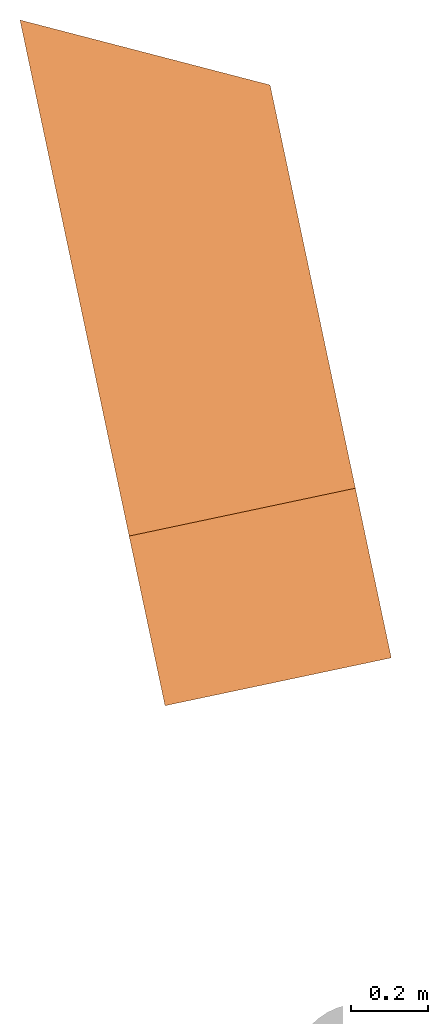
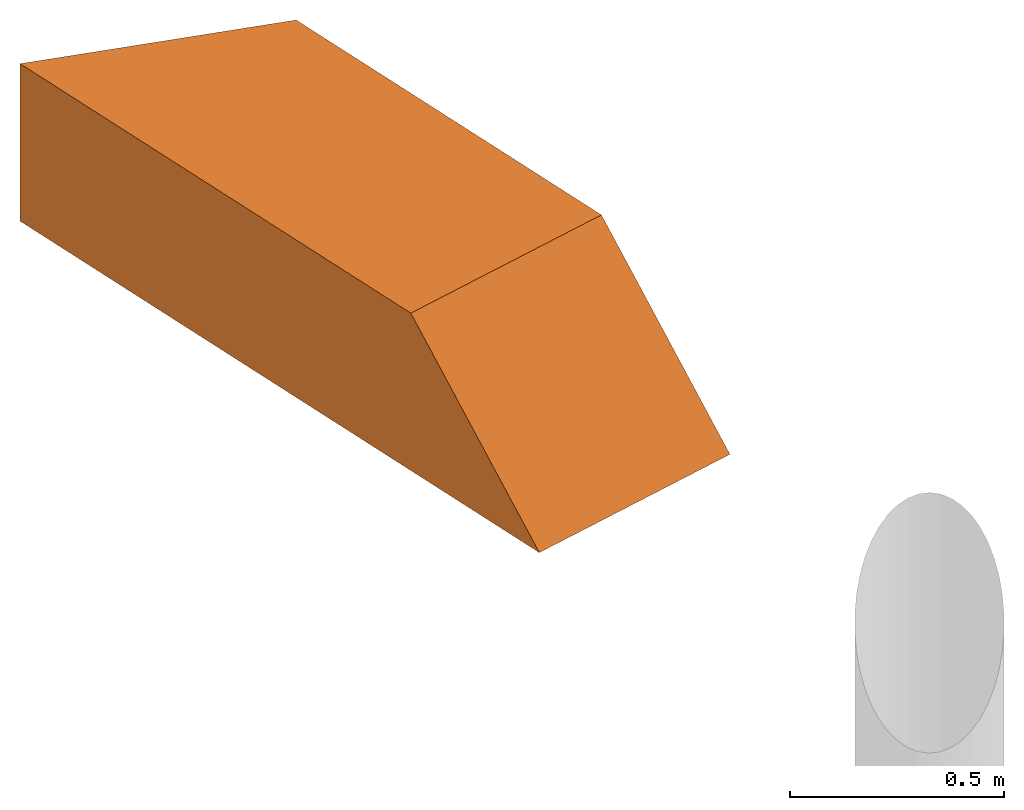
# One storey, part 2 of 2: 1 proxy.
"""IFC2X3 building model written with IfcOpenShell, lengths in millimetres."""

from ifc_helpers import new_model, entity, si_unit, converted_unit, derived_unit, direction, frame, origin, origin_with_axes, place, context, subcontext, project, spatial, faceted_brep, material, type_object, element, save


model = new_model("IFC2X3")

# Units and contexts
model_context = context("Model", 3, precision=0.01, world=origin(), true_north=direction((6.12323399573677e-17, 1.0)))
plan_context = context("Plan", 3, precision=1e-05, world=origin_with_axes())
body_context = subcontext(model_context, "Body", "Model", "MODEL_VIEW")
ifc_project = project(units=[converted_unit("PLANEANGLEUNIT", "DEGREE", entity("IfcPositiveLengthMeasure", 0.0174532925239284), si_unit("PLANEANGLEUNIT", "RADIAN"), dimensions=[0, 0, 0, 0, 0, 0, 0]), si_unit("AREAUNIT", "SQUARE_METRE"), si_unit("LENGTHUNIT", "METRE", prefix="MILLI"), si_unit("MASSUNIT", "GRAM", prefix="KILO"), si_unit("POWERUNIT", "WATT"), si_unit("PRESSUREUNIT", "PASCAL", prefix="KILO"), si_unit("FORCEUNIT", "NEWTON", prefix="KILO"), si_unit("ELECTRICVOLTAGEUNIT", "VOLT"), si_unit("ELECTRICCURRENTUNIT", "AMPERE"), si_unit("THERMODYNAMICTEMPERATUREUNIT", "DEGREE_CELSIUS"), si_unit("TIMEUNIT", "SECOND"), si_unit("VOLUMEUNIT", "CUBIC_METRE"), derived_unit("LINEARVELOCITYUNIT", [(si_unit("LENGTHUNIT", "METRE"), 1), (si_unit("TIMEUNIT", "SECOND"), -1)]), derived_unit("VOLUMETRICFLOWRATEUNIT", [(si_unit("VOLUMEUNIT", "CUBIC_METRE"), 1), (si_unit("TIMEUNIT", "SECOND"), -1)]), derived_unit("THERMALTRANSMITTANCEUNIT", [(si_unit("POWERUNIT", "WATT"), 1), (si_unit("THERMODYNAMICTEMPERATUREUNIT", "KELVIN"), -1), (si_unit("AREAUNIT", "SQUARE_METRE"), -1)]), derived_unit("SOUNDPRESSUREUNIT", [(si_unit("PRESSUREUNIT", "PASCAL"), 1)])], contexts=[model_context, plan_context])

# Site, building, storey
site_placement = place(None, frame((0.0, 0.0, 0.0), z_axis=(0.0, 0.0, 1.0), x_axis=(0.214788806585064, -0.976660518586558, 0.0)))
site = spatial("IfcSite", under=ifc_project, at=site_placement, Name="Default", CompositionType="ELEMENT")
building_placement = place(site_placement, origin_with_axes())
building = spatial("IfcBuilding", under=site, at=building_placement, CompositionType="ELEMENT")
storey_placement = place(building_placement, frame((0.0, 0.0, 5100.0), z_axis=(0.0, 0.0, 1.0), x_axis=(1.0, 0.0, 0.0)))
storey = spatial("IfcBuildingStorey", under=building, at=storey_placement, Name="PLAN 01. ETG", CompositionType="ELEMENT", Elevation=5100.0)

# Proxy
ifc_material = material(Name="Hvit")
building_element_proxy_type = type_object("IfcBuildingElementProxyType", Name="Generic Models 4:Generic Models 4", PredefinedType="NOTDEFINED", material=ifc_material)
proxy_placement = place(storey_placement, frame((487.380753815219, -3.90091107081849, -4750.0), z_axis=(0.0, 0.0, 1.0), x_axis=(1.0, 0.0, 0.0)))
element("IfcBuildingElementProxy", 1, at=proxy_placement, inside=storey, type_object=building_element_proxy_type, Name="Generic Models 4:Generic Models 4", ObjectType="Generic Models 4:Generic Models 4", context=body_context, shape_type="Brep", body=[
    faceted_brep([(-202688.895951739, 371575.854008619, 4700.0), (-202993.037365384, 370978.269085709, 4700.0), (-201174.259580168, 370963.711903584, 4700.0), (-201169.457437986, 371563.692686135, 4700.0), (-202993.037365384, 370978.269085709, 5150.0), (-202688.895951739, 371575.854008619, 5150.0), (-201619.443024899, 371567.294292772, 5150.0), (-201624.245167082, 370967.313510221, 5150.0)], [[[0, 1, 2, 3]], [[4, 5, 6, 7]], [[7, 6, 3, 2]], [[1, 4, 7, 2]], [[5, 0, 3, 6]], [[5, 4, 1, 0]]], orient=[[False], [False], [False], [False], [False], [False]]),
])

save(model, "model.ifc")
